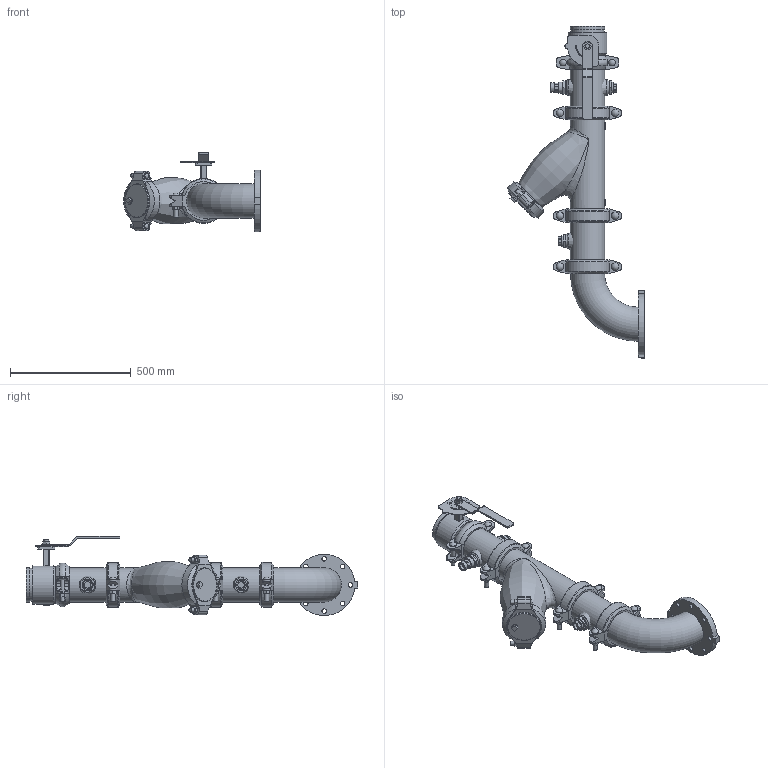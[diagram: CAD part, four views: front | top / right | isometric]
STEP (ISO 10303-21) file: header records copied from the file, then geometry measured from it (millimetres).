
FILE_DESCRIPTION(/* description */ ('VIC SVI PUMP DROP HORZ S/382 (OGSxFLG) (S/924-0.75)','CAx-IF Rec.Pracs.---Representation and Presentation of Product Manufacturing Information (PMI)---4.0---2014-10-13'),/* implementation_level */ '2;1');
FILE_NAME(/* name */ 'C:\Users\Vjadhav\AppData\Roaming\Autodesk\ApplicationPlugins\Victaulic.Temp\A562\Victaulic_IPS_Horizontal SVI_CL 150_Series 382 (OGSxFLG)_924 (0.75)_05.0x05.0 (125x125).stp',/* time_stamp */ '2022-02-28T19:58:42+05:00',/* author */ ('kkamble'),/* organization */ ('Victaulic'),/* preprocessor_version */ 'ST-DEVELOPER v17.2',/* originating_system */ 'Autodesk Inventor 2019',/* authorisation */ '');
FILE_SCHEMA (('AP242_MANAGED_MODEL_BASED_3D_ENGINEERING_MIM_LF { 1 0 10303 442 1 1 4 }'));
Length unit declared in the file: inch
Products named in the file (14): 382_924 (0.75)-05.0x05.0; PIPE-05.0; 107N-05.0; 732-05.0; 732-05.0_1; 07-05.0; 732-05.0_2; 100-05.0; PIPE-05.4; 761-05.0; 741-05.0; 177N-05.0; 924-04.0x0.75; 923-04.0x0.75
Assembly tree (16 placements, depth 3):
  382_924 (0.75)-05.0x05.0
    PIPE-05.0
    107N-05.0
    732-05.0
      732-05.0_1
      07-05.0
      732-05.0_2
    177N-05.0  x3
    100-05.0
    PIPE-05.4
    761-05.0
    741-05.0
    923-04.0x0.75  x2
    924-04.0x0.75
Bounding box: 565.15 x 1373.19 x 326.93 mm (x, y, z)
Volume: 10470306.8 mm3; surface area: 2321270.4 mm2
Topology: 15 solids, 18 shells, 877 faces, 2266 edges, 1508 vertices
Faces by surface type: plane 489, cylinder 293, torus 32, cone 27, bspline 26, sphere 10
Full cylindrical faces by diameter (mm): 4.826 x10, 8.636 x4, 15.875 x8, 17.78 x6, 19.05 x10, 22.86 x1, 25.4 x3, 26.67 x3, 27.381 x2, 30.48 x6, 38.608 x1, 45.974 x6, 55.118 x1, 55.626 x3, 117.602 x1, 127.356 x1, 127.584 x1, 128.194 x5, 128.6 x4, 134.95 x1, 137.033 x12, 141.3 x28, 160.02 x1
Entity records: 24681 total; most frequent: CARTESIAN_POINT 7381, DIRECTION 3515, ORIENTED_EDGE 3268, EDGE_CURVE 1634, AXIS2_PLACEMENT_3D 1336, VERTEX_POINT 1092, LINE 843, VECTOR 843
